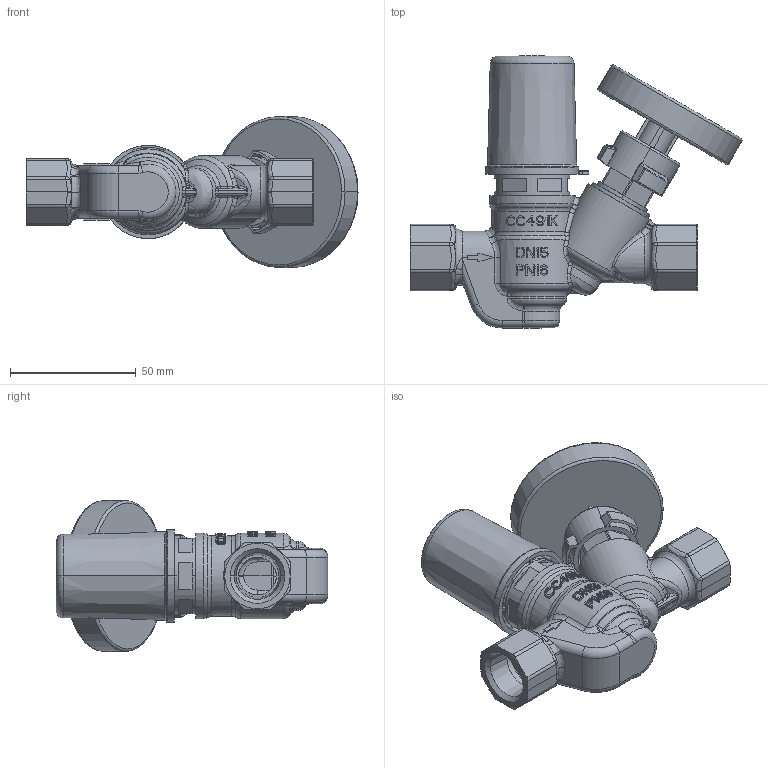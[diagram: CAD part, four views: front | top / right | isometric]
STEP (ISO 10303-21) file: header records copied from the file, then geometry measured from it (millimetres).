
FILE_DESCRIPTION((''),'2;1');
FILE_NAME('D2890_DN15_WITH_THERMOMETER_ASM','2013-05-14T',('RChallis'),(''),'PRO/ENGINEER BY PARAMETRIC TECHNOLOGY CORPORATION, 2007460','PRO/ENGINEER BY PARAMETRIC TECHNOLOGY CORPORATION, 2007460','');
FILE_SCHEMA(('CONFIG_CONTROL_DESIGN'));
Length unit declared in the file: millimetre
Products named in the file (4): D2890_DN15_NO-CAP_SW; 146110_TU_PROTECTIVE_CAP_CRANE; THERMOMETER_ASSY_SW; D2890_DN15_WITH_THERMOMETER_ASM
Assembly tree (3 placements, depth 2):
  D2890_DN15_WITH_THERMOMETER_ASM
    D2890_DN15_NO-CAP_SW
    146110_TU_PROTECTIVE_CAP_CRANE
    THERMOMETER_ASSY_SW
Bounding box: 131.86 x 108 x 60 mm (x, y, z)
Volume: 140130.8 mm3; surface area: 63015.4 mm2
Topology: 20 solids, 21 shells, 3662 faces, 10247 edges, 6701 vertices
Faces by surface type: plane 2982, cylinder 256, bspline 208, cone 96, torus 80, sphere 40
Entity records: 129063 total; most frequent: CARTESIAN_POINT 38811, ORIENTED_EDGE 20490, DIRECTION 16375, EDGE_CURVE 10245, VERTEX_POINT 6701, VECTOR 6433, LINE 6433, AXIS2_PLACEMENT_3D 4971
